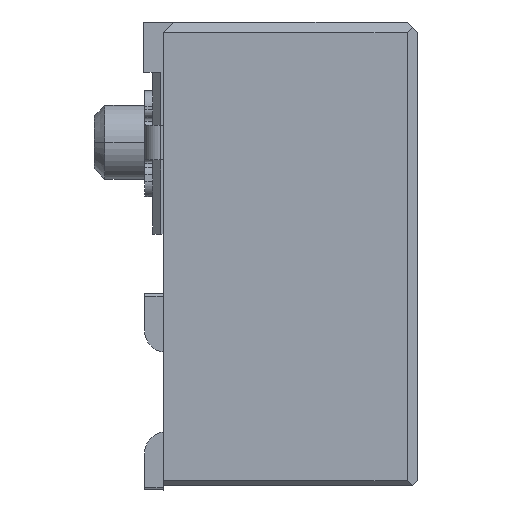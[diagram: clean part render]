
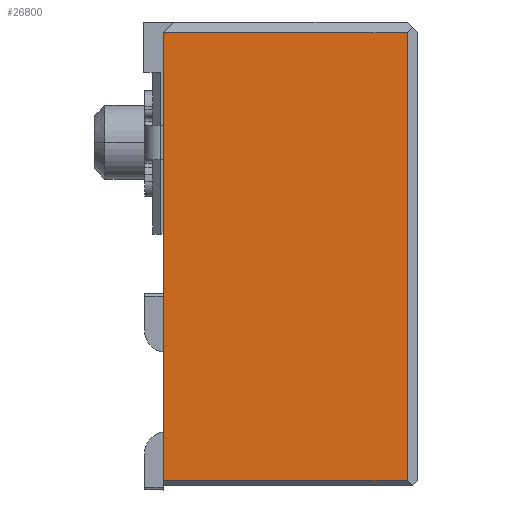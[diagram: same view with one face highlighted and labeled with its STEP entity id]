
A CAD part, left-side view. The second image highlights one B-rep face of the part: STEP entity #26800.
In plain terms, the highlighted planar face has unit normal (-1, 0, 0).
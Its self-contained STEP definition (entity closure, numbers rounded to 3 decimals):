
#4213=DIRECTION('',(0.,-1.,0.));
#4214=VECTOR('',#4213,4.6);
#4215=CARTESIAN_POINT('',(-8.6,-0.35,0.1));
#4216=LINE('',#4215,#4214);
#4217=DIRECTION('',(0.,0.,1.));
#4218=VECTOR('',#4217,8.45);
#4219=CARTESIAN_POINT('',(-8.6,-0.35,0.1));
#4220=LINE('',#4219,#4218);
#4221=DIRECTION('',(0.,-1.,0.));
#4222=VECTOR('',#4221,4.6);
#4223=CARTESIAN_POINT('',(-8.6,-0.35,8.55));
#4224=LINE('',#4223,#4222);
#4285=DIRECTION('',(0.,0.,1.));
#4286=VECTOR('',#4285,8.45);
#4287=CARTESIAN_POINT('',(-8.6,-4.95,0.1));
#4288=LINE('',#4287,#4286);
#16906=CARTESIAN_POINT('',(-8.6,-0.35,8.55));
#16907=VERTEX_POINT('',#16906);
#16908=CARTESIAN_POINT('',(-8.6,-0.35,0.1));
#16909=VERTEX_POINT('',#16908);
#17703=CARTESIAN_POINT('',(-8.6,-4.95,8.55));
#17704=VERTEX_POINT('',#17703);
#17727=CARTESIAN_POINT('',(-8.6,-4.95,0.1));
#17728=VERTEX_POINT('',#17727);
#26787=CARTESIAN_POINT('',(-8.6,-8.376,8.75));
#26788=DIRECTION('',(1.,0.,0.));
#26789=DIRECTION('',(0.,-1.,0.));
#26790=AXIS2_PLACEMENT_3D('',#26787,#26788,#26789);
#26791=PLANE('',#26790);
#26792=ORIENTED_EDGE('',*,*,#22022,.T.);
#26794=ORIENTED_EDGE('',*,*,#26793,.T.);
#26796=ORIENTED_EDGE('',*,*,#26795,.F.);
#26797=ORIENTED_EDGE('',*,*,#26780,.F.);
#26798=EDGE_LOOP('',(#26792,#26794,#26796,#26797));
#26799=FACE_OUTER_BOUND('',#26798,.F.);
#26800=ADVANCED_FACE('',(#26799),#26791,.F.);
#22022=EDGE_CURVE('',#16909,#16907,#4220,.T.);
#26780=EDGE_CURVE('',#16909,#17728,#4216,.T.);
#26793=EDGE_CURVE('',#16907,#17704,#4224,.T.);
#26795=EDGE_CURVE('',#17728,#17704,#4288,.T.);
